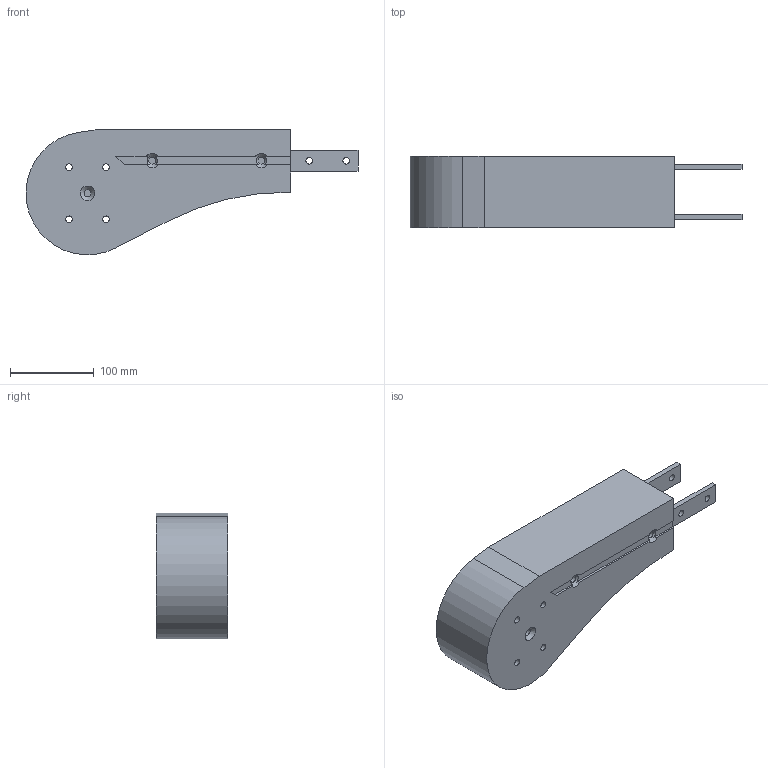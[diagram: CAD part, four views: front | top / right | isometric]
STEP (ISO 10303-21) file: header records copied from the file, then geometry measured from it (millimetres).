
FILE_DESCRIPTION(/* description */ ('Umlenkeinheit FM'),/* implementation_level */ '2;1');
FILE_NAME(/* name */ 'T:\vdz0\Step Daten Website\modulflex FM-System\Umlenkeinheiten\FMEJ 315_M_62462.stp',/* time_stamp */ '2024-08-22T09:02:42+02:00',/* author */ ('vdz0'),/* organization */ ('modular automation GmbH'),/* preprocessor_version */ 'ST-DEVELOPER v18.1',/* originating_system */ 'Autodesk Inventor 2021',/* authorisation */ '');
FILE_SCHEMA (('CONFIG_CONTROL_DESIGN'));
Length unit declared in the file: millimetre
Products named in the file (1): FMEJ 315_M_62462
Bounding box: 395.25 x 85 x 149.47 mm (x, y, z)
Volume: 2855436 mm3; surface area: 157929.1 mm2
Topology: 1 solids, 1 shells, 69 faces, 175 edges, 112 vertices
Faces by surface type: plane 41, cylinder 18, cone 10
Full cylindrical faces by diameter (mm): 8 x8, 8.5 x6
Entity records: 2142 total; most frequent: CARTESIAN_POINT 389, DIRECTION 357, ORIENTED_EDGE 350, EDGE_CURVE 175, AXIS2_PLACEMENT_3D 128, VERTEX_POINT 112, LINE 101, VECTOR 101
